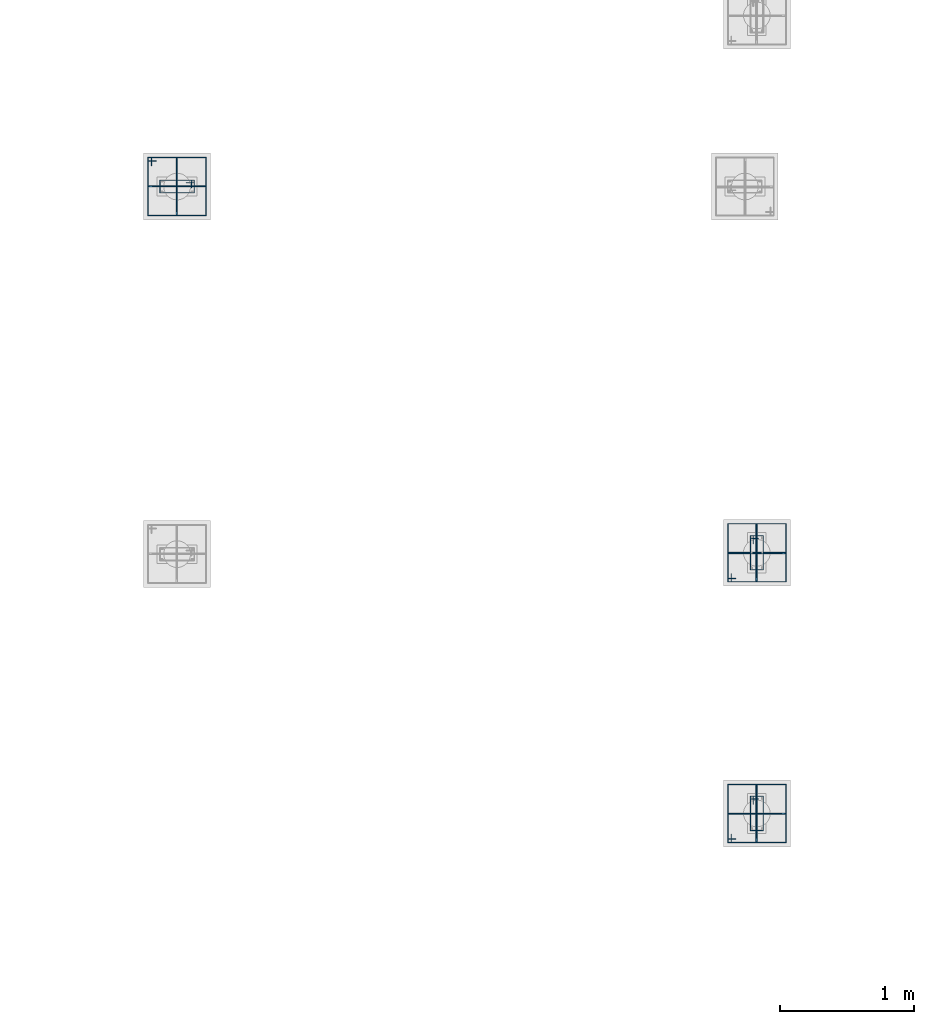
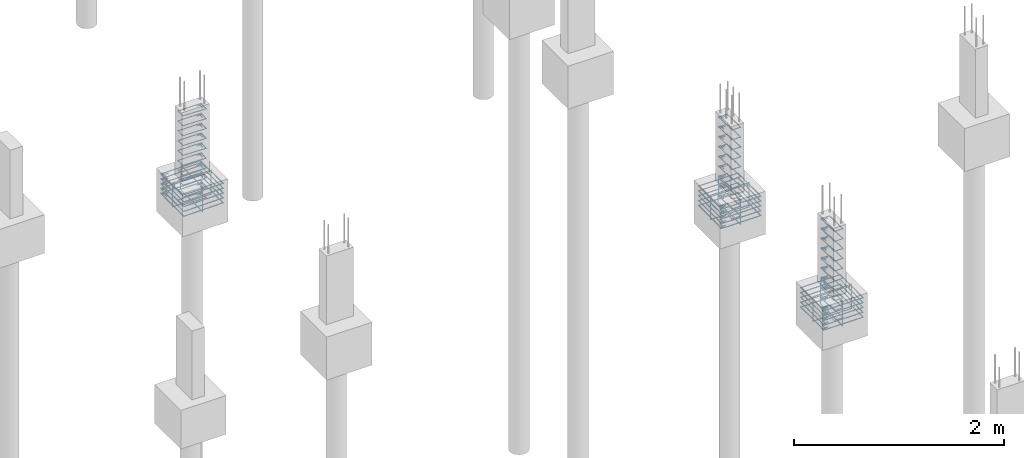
# One storey, part 73 of 119: 51 reinforcing bars.
"""IFC4 building model written with IfcOpenShell, lengths in centimetres."""

from ifc_helpers import new_model, entity, si_unit, derived_unit, frame, origin_with_axes, place, context, project, spatial, source, transform, mapped, element, save


model = new_model("IFC4")

# Units and contexts
model_context = context("Model", 3, precision=1e-05, world=origin_with_axes(), identifier="Body")
ifc_project = project(units=[si_unit("LENGTHUNIT", "METRE", prefix="CENTI"), si_unit("VOLUMEUNIT", "CUBIC_METRE"), si_unit("AREAUNIT", "SQUARE_METRE"), si_unit("POWERUNIT", "WATT"), si_unit("LUMINOUSFLUXUNIT", "LUMEN"), si_unit("ELECTRICCURRENTUNIT", "AMPERE"), si_unit("PRESSUREUNIT", "PASCAL", prefix="KILO"), si_unit("MASSUNIT", "GRAM", prefix="KILO"), si_unit("PLANEANGLEUNIT", "RADIAN"), derived_unit("VOLUMETRICFLOWRATEUNIT", [(si_unit("LENGTHUNIT", "METRE"), 3), (si_unit("TIMEUNIT", "SECOND"), -1)])], contexts=[model_context])

# Site, building, storey
site_placement = place(None, frame((-4000.0, 0.0, 0.0), z_axis=(0.0, 0.0, 1.0), x_axis=(1.0, 0.0, 0.0)))
site = spatial("IfcSite", under=ifc_project, at=site_placement, Name="PADRÃO")
building_placement = place(site_placement, frame((0.0, 0.0, -14.0)))
building = spatial("IfcBuilding", under=site, at=building_placement, Name="CRECHE PRÉ-ESCOLA TIPO 2")
storey_placement = place(building_placement, origin_with_axes())
storey = spatial("IfcBuildingStorey", under=building, at=storey_placement, Name="FUNDAÇÃO", CompositionType="ELEMENT", Elevation=-14.0)

# Reinforcing bars
shared_shape_1 = source(origin_with_axes(), model_context, "Body", "AdvancedSweptSolid", [
    entity("IfcSweptDiskSolid", entity("IfcCompositeCurve", [entity("IfcCompositeCurveSegment", "CONTINUOUS", True, entity("IfcPolyline", [entity("IfcCartesianPoint", [4.25, 21.75, 0.0]), entity("IfcCartesianPoint", [4.25, 27.75, 0.0])])), entity("IfcCompositeCurveSegment", "CONTINUOUS", True, entity("IfcPolyline", [entity("IfcCartesianPoint", [4.25, 27.75, 0.0]), entity("IfcCartesianPoint", [2.25, 27.75, 0.0])])), entity("IfcCompositeCurveSegment", "CONTINUOUS", True, entity("IfcPolyline", [entity("IfcCartesianPoint", [2.25, 27.75, 0.0]), entity("IfcCartesianPoint", [2.25, 2.25, 0.0])])), entity("IfcCompositeCurveSegment", "CONTINUOUS", True, entity("IfcPolyline", [entity("IfcCartesianPoint", [2.25, 2.25, 0.0]), entity("IfcCartesianPoint", [11.75, 2.25, 0.0])])), entity("IfcCompositeCurveSegment", "CONTINUOUS", True, entity("IfcPolyline", [entity("IfcCartesianPoint", [11.75, 2.25, 0.0]), entity("IfcCartesianPoint", [11.75, 27.75, -0.5])])), entity("IfcCompositeCurveSegment", "CONTINUOUS", True, entity("IfcPolyline", [entity("IfcCartesianPoint", [11.75, 27.75, -0.5]), entity("IfcCartesianPoint", [2.25, 27.75, -0.5])])), entity("IfcCompositeCurveSegment", "CONTINUOUS", True, entity("IfcPolyline", [entity("IfcCartesianPoint", [2.25, 27.75, -0.5]), entity("IfcCartesianPoint", [2.25, 25.75, -0.5])])), entity("IfcCompositeCurveSegment", "CONTINUOUS", True, entity("IfcPolyline", [entity("IfcCartesianPoint", [2.25, 25.75, -0.5]), entity("IfcCartesianPoint", [8.25, 25.75, -0.5])]))], False), 0.25),
])
for number, where, z_axis, x_axis, name in (
    (1, (670.0, 1309.5, -51.75), (0.0, 0.0, 1.0), (0.0, -1.0, 0.0), "P108 - Estribo"),
    (2, (670.0, 1309.5, -97.75), (0.0, 0.0, 1.0), (0.0, -1.0, 0.0), "P108 - Estribo"),
    (3, (670.0, 1309.5, -5.75), (0.0, 0.0, 1.0), (0.0, -1.0, 0.0), "P108 - Estribo"),
    (4, (670.0, 1309.5, -17.25), (0.0, 0.0, 1.0), (0.0, -1.0, 0.0), "P108 - Estribo"),
    (5, (670.0, 1309.5, -28.75), (0.0, 0.0, 1.0), (0.0, -1.0, 0.0), "P108 - Estribo"),
    (6, (670.0, 1309.5, -109.25), (0.0, 0.0, 1.0), (0.0, -1.0, 0.0), "P108 - Estribo"),
    (7, (670.0, 1309.5, -63.25), (0.0, 0.0, 1.0), (0.0, -1.0, 0.0), "P108 - Estribo"),
    (8, (670.0, 1309.5, -74.75), (0.0, 0.0, 1.0), (0.0, -1.0, 0.0), "P108 - Estribo"),
    (9, (670.0, 1309.5, -86.25), (0.0, 0.0, 1.0), (0.0, -1.0, 0.0), "P108 - Estribo"),
    (10, (670.0, 1309.5, -40.25), (0.0, 0.0, 1.0), (0.0, -1.0, 0.0), "P108 - Estribo"),
):
    element("IfcReinforcingBar", number, at=place(storey_placement, frame(where, z_axis=z_axis, x_axis=x_axis)), inside=storey, Name=name, BarLength=0.0, CrossSectionArea=1.9634954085e-05, NominalDiameter=0.5, PredefinedType="MAIN", context=model_context, shape_type="MappedRepresentation", body=[
        mapped(shared_shape_1, transform((0.0, 0.0, 0.0), scale=1.0)),
    ])
shared_shape_2 = source(origin_with_axes(), model_context, "Body", "AdvancedSweptSolid", [
    entity("IfcSweptDiskSolid", entity("IfcCompositeCurve", [entity("IfcCompositeCurveSegment", "CONTINUOUS", True, entity("IfcPolyline", [entity("IfcCartesianPoint", [665.835, 1317.925, 0.0]), entity("IfcCartesianPoint", [665.835, 1324.185, 0.0])])), entity("IfcCompositeCurveSegment", "CONTINUOUS", True, entity("IfcPolyline", [entity("IfcCartesianPoint", [665.835, 1324.185, 0.0]), entity("IfcCartesianPoint", [663.315, 1324.185, 0.0])])), entity("IfcCompositeCurveSegment", "CONTINUOUS", True, entity("IfcPolyline", [entity("IfcCartesianPoint", [663.315, 1324.185, 0.0]), entity("IfcCartesianPoint", [663.315, 1280.815, 0.0])])), entity("IfcCompositeCurveSegment", "CONTINUOUS", True, entity("IfcPolyline", [entity("IfcCartesianPoint", [663.315, 1280.815, 0.0]), entity("IfcCartesianPoint", [706.685, 1280.815, 0.63])])), entity("IfcCompositeCurveSegment", "CONTINUOUS", True, entity("IfcPolyline", [entity("IfcCartesianPoint", [706.685, 1280.815, 0.63]), entity("IfcCartesianPoint", [706.685, 1324.185, 0.63])])), entity("IfcCompositeCurveSegment", "CONTINUOUS", True, entity("IfcPolyline", [entity("IfcCartesianPoint", [706.685, 1324.185, 0.63]), entity("IfcCartesianPoint", [663.315, 1324.185, 0.63])])), entity("IfcCompositeCurveSegment", "CONTINUOUS", True, entity("IfcPolyline", [entity("IfcCartesianPoint", [663.315, 1324.185, 0.63]), entity("IfcCartesianPoint", [663.315, 1321.665, 0.63])])), entity("IfcCompositeCurveSegment", "CONTINUOUS", True, entity("IfcPolyline", [entity("IfcCartesianPoint", [663.315, 1321.665, 0.63]), entity("IfcCartesianPoint", [669.575, 1321.665, 0.63])]))], False), 0.315),
])
for number, where, z_axis, x_axis, name in (
    (11, (0.0, 0.0, -103.525), (0.0, 0.0, 1.0), (1.0, 0.0, 0.0), "P108 - Blocos (estribos)"),
    (12, (0.0, 0.0, -109.175), (0.0, 0.0, 1.0), (1.0, 0.0, 0.0), "P108 - Blocos (estribos)"),
    (13, (0.0, 0.0, -86.575), (0.0, 0.0, 1.0), (1.0, 0.0, 0.0), "P108 - Blocos (estribos)"),
    (14, (0.0, 0.0, -92.225), (0.0, 0.0, 1.0), (1.0, 0.0, 0.0), "P108 - Blocos (estribos)"),
    (15, (0.0, 0.0, -97.875), (0.0, 0.0, 1.0), (1.0, 0.0, 0.0), "P108 - Blocos (estribos)"),
):
    element("IfcReinforcingBar", number, at=place(storey_placement, frame(where, z_axis=z_axis, x_axis=x_axis)), inside=storey, Name=name, BarLength=0.0, CrossSectionArea=3.1172453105e-05, NominalDiameter=0.63, PredefinedType="MAIN", context=model_context, shape_type="MappedRepresentation", body=[
        mapped(shared_shape_2, transform((0.0, 0.0, 0.0), scale=1.0)),
    ])
shared_shape_3 = source(origin_with_axes(), model_context, "Body", "AdvancedSweptSolid", [
    entity("IfcSweptDiskSolid", entity("IfcCompositeCurve", [entity("IfcCompositeCurveSegment", "CONTINUOUS", True, entity("IfcPolyline", [entity("IfcCartesianPoint", [-15.12, -12.0, 0.0]), entity("IfcCartesianPoint", [-21.12, -12.0, 0.0])])), entity("IfcCompositeCurveSegment", "CONTINUOUS", True, entity("IfcPolyline", [entity("IfcCartesianPoint", [-21.12, -12.0, 0.0]), entity("IfcCartesianPoint", [-21.12, -14.0, 0.0])])), entity("IfcCompositeCurveSegment", "CONTINUOUS", True, entity("IfcPolyline", [entity("IfcCartesianPoint", [-21.12, -14.0, 0.0]), entity("IfcCartesianPoint", [21.12, -14.0, 0.0])])), entity("IfcCompositeCurveSegment", "CONTINUOUS", True, entity("IfcPolyline", [entity("IfcCartesianPoint", [21.12, -14.0, 0.0]), entity("IfcCartesianPoint", [21.12, 14.0, 0.5])])), entity("IfcCompositeCurveSegment", "CONTINUOUS", True, entity("IfcPolyline", [entity("IfcCartesianPoint", [21.12, 14.0, 0.5]), entity("IfcCartesianPoint", [-21.12, 14.0, 0.5])])), entity("IfcCompositeCurveSegment", "CONTINUOUS", True, entity("IfcPolyline", [entity("IfcCartesianPoint", [-21.12, 14.0, 0.5]), entity("IfcCartesianPoint", [-21.12, -14.0, 0.5])])), entity("IfcCompositeCurveSegment", "CONTINUOUS", True, entity("IfcPolyline", [entity("IfcCartesianPoint", [-21.12, -14.0, 0.5]), entity("IfcCartesianPoint", [-19.12, -14.0, 0.5])])), entity("IfcCompositeCurveSegment", "CONTINUOUS", True, entity("IfcPolyline", [entity("IfcCartesianPoint", [-19.12, -14.0, 0.5]), entity("IfcCartesianPoint", [-19.12, -8.0, 0.5])]))], False), 0.25),
])
reinforcing_bar_1_placement = place(storey_placement, frame((685.0, 1302.5, -97.75), z_axis=(0.0, 1.0, 0.0), x_axis=(1.0, 0.0, 0.0)))
element("IfcReinforcingBar", 16, at=reinforcing_bar_1_placement, inside=storey, Name="P108 - Blocos (estribos)", BarLength=0.0, CrossSectionArea=1.9634954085e-05, NominalDiameter=0.5, PredefinedType="MAIN", context=model_context, shape_type="MappedRepresentation", body=[
    mapped(shared_shape_3, transform((0.0, 0.0, 0.0), scale=1.0)),
])
shared_shape_4 = source(origin_with_axes(), model_context, "Body", "AdvancedSweptSolid", [
    entity("IfcSweptDiskSolid", entity("IfcCompositeCurve", [entity("IfcCompositeCurveSegment", "CONTINUOUS", True, entity("IfcPolyline", [entity("IfcCartesianPoint", [-15.12, -12.0, 0.0]), entity("IfcCartesianPoint", [-21.12, -12.0, 0.0])])), entity("IfcCompositeCurveSegment", "CONTINUOUS", True, entity("IfcPolyline", [entity("IfcCartesianPoint", [-21.12, -12.0, 0.0]), entity("IfcCartesianPoint", [-21.12, -14.0, 0.0])])), entity("IfcCompositeCurveSegment", "CONTINUOUS", True, entity("IfcPolyline", [entity("IfcCartesianPoint", [-21.12, -14.0, 0.0]), entity("IfcCartesianPoint", [21.12, -14.0, 0.0])])), entity("IfcCompositeCurveSegment", "CONTINUOUS", True, entity("IfcPolyline", [entity("IfcCartesianPoint", [21.12, -14.0, 0.0]), entity("IfcCartesianPoint", [21.12, 14.0, 0.5])])), entity("IfcCompositeCurveSegment", "CONTINUOUS", True, entity("IfcPolyline", [entity("IfcCartesianPoint", [21.12, 14.0, 0.5]), entity("IfcCartesianPoint", [-21.12, 14.0, 0.5])])), entity("IfcCompositeCurveSegment", "CONTINUOUS", True, entity("IfcPolyline", [entity("IfcCartesianPoint", [-21.12, 14.0, 0.5]), entity("IfcCartesianPoint", [-21.12, -14.0, 0.5])])), entity("IfcCompositeCurveSegment", "CONTINUOUS", True, entity("IfcPolyline", [entity("IfcCartesianPoint", [-21.12, -14.0, 0.5]), entity("IfcCartesianPoint", [-19.12, -14.0, 0.5])])), entity("IfcCompositeCurveSegment", "CONTINUOUS", True, entity("IfcPolyline", [entity("IfcCartesianPoint", [-19.12, -14.0, 0.5]), entity("IfcCartesianPoint", [-19.12, -8.0, 0.5])]))], False), 0.25),
])
reinforcing_bar_2_placement = place(storey_placement, frame((685.0, 1302.5, -97.75), z_axis=(-1.0, 0.0, 0.0), x_axis=(0.0, 1.0, 0.0)))
element("IfcReinforcingBar", 17, at=reinforcing_bar_2_placement, inside=storey, Name="P108 - Blocos (estribos)", BarLength=0.0, CrossSectionArea=1.9634954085e-05, NominalDiameter=0.5, PredefinedType="MAIN", context=model_context, shape_type="MappedRepresentation", body=[
    mapped(shared_shape_4, transform((0.0, 0.0, 0.0), scale=1.0)),
])
shared_shape_5 = source(origin_with_axes(), model_context, "Body", "AdvancedSweptSolid", [
    entity("IfcSweptDiskSolid", entity("IfcCompositeCurve", [entity("IfcCompositeCurveSegment", "CONTINUOUS", True, entity("IfcPolyline", [entity("IfcCartesianPoint", [4.25, 21.75, 0.0]), entity("IfcCartesianPoint", [4.25, 27.75, 0.0])])), entity("IfcCompositeCurveSegment", "CONTINUOUS", True, entity("IfcPolyline", [entity("IfcCartesianPoint", [4.25, 27.75, 0.0]), entity("IfcCartesianPoint", [2.25, 27.75, 0.0])])), entity("IfcCompositeCurveSegment", "CONTINUOUS", True, entity("IfcPolyline", [entity("IfcCartesianPoint", [2.25, 27.75, 0.0]), entity("IfcCartesianPoint", [2.25, 2.25, 0.0])])), entity("IfcCompositeCurveSegment", "CONTINUOUS", True, entity("IfcPolyline", [entity("IfcCartesianPoint", [2.25, 2.25, 0.0]), entity("IfcCartesianPoint", [11.75, 2.25, 0.0])])), entity("IfcCompositeCurveSegment", "CONTINUOUS", True, entity("IfcPolyline", [entity("IfcCartesianPoint", [11.75, 2.25, 0.0]), entity("IfcCartesianPoint", [11.75, 27.75, -0.5])])), entity("IfcCompositeCurveSegment", "CONTINUOUS", True, entity("IfcPolyline", [entity("IfcCartesianPoint", [11.75, 27.75, -0.5]), entity("IfcCartesianPoint", [2.25, 27.75, -0.5])])), entity("IfcCompositeCurveSegment", "CONTINUOUS", True, entity("IfcPolyline", [entity("IfcCartesianPoint", [2.25, 27.75, -0.5]), entity("IfcCartesianPoint", [2.25, 25.75, -0.5])])), entity("IfcCompositeCurveSegment", "CONTINUOUS", True, entity("IfcPolyline", [entity("IfcCartesianPoint", [2.25, 25.75, -0.5]), entity("IfcCartesianPoint", [8.25, 25.75, -0.5])]))], False), 0.25),
])
for number, where, z_axis, x_axis, name in (
    (18, (1111.72, 1013.5, -17.25), (0.0, 0.0, 1.0), (1.0, 0.0, 0.0), "P119 - Estribo"),
    (19, (1111.72, 1013.5, -86.25), (0.0, 0.0, 1.0), (1.0, 0.0, 0.0), "P119 - Estribo"),
    (20, (1111.72, 1013.5, -5.75), (0.0, 0.0, 1.0), (1.0, 0.0, 0.0), "P119 - Estribo"),
    (21, (1111.72, 1013.5, -109.25), (0.0, 0.0, 1.0), (1.0, 0.0, 0.0), "P119 - Estribo"),
    (22, (1111.72, 1013.5, -51.75), (0.0, 0.0, 1.0), (1.0, 0.0, 0.0), "P119 - Estribo"),
    (23, (1111.72, 1013.5, -40.25), (0.0, 0.0, 1.0), (1.0, 0.0, 0.0), "P119 - Estribo"),
    (24, (1111.72, 1013.5, -28.75), (0.0, 0.0, 1.0), (1.0, 0.0, 0.0), "P119 - Estribo"),
    (25, (1111.72, 1013.5, -97.75), (0.0, 0.0, 1.0), (1.0, 0.0, 0.0), "P119 - Estribo"),
    (26, (1111.72, 1013.5, -63.25), (0.0, 0.0, 1.0), (1.0, 0.0, 0.0), "P119 - Estribo"),
    (27, (1111.72, 1013.5, -74.75), (0.0, 0.0, 1.0), (1.0, 0.0, 0.0), "P119 - Estribo"),
):
    element("IfcReinforcingBar", number, at=place(storey_placement, frame(where, z_axis=z_axis, x_axis=x_axis)), inside=storey, Name=name, BarLength=0.0, CrossSectionArea=1.9634954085e-05, NominalDiameter=0.5, PredefinedType="MAIN", context=model_context, shape_type="MappedRepresentation", body=[
        mapped(shared_shape_5, transform((0.0, 0.0, 0.0), scale=1.0)),
    ])
shared_shape_6 = source(origin_with_axes(), model_context, "Body", "AdvancedSweptSolid", [
    entity("IfcSweptDiskSolid", entity("IfcCompositeCurve", [entity("IfcCompositeCurveSegment", "CONTINUOUS", True, entity("IfcPolyline", [entity("IfcCartesianPoint", [1103.295, 1009.335, 0.0]), entity("IfcCartesianPoint", [1097.035, 1009.335, 0.0])])), entity("IfcCompositeCurveSegment", "CONTINUOUS", True, entity("IfcPolyline", [entity("IfcCartesianPoint", [1097.035, 1009.335, 0.0]), entity("IfcCartesianPoint", [1097.035, 1006.815, 0.0])])), entity("IfcCompositeCurveSegment", "CONTINUOUS", True, entity("IfcPolyline", [entity("IfcCartesianPoint", [1097.035, 1006.815, 0.0]), entity("IfcCartesianPoint", [1140.405, 1006.815, 0.0])])), entity("IfcCompositeCurveSegment", "CONTINUOUS", True, entity("IfcPolyline", [entity("IfcCartesianPoint", [1140.405, 1006.815, 0.0]), entity("IfcCartesianPoint", [1140.405, 1050.185, 0.63])])), entity("IfcCompositeCurveSegment", "CONTINUOUS", True, entity("IfcPolyline", [entity("IfcCartesianPoint", [1140.405, 1050.185, 0.63]), entity("IfcCartesianPoint", [1097.035, 1050.185, 0.63])])), entity("IfcCompositeCurveSegment", "CONTINUOUS", True, entity("IfcPolyline", [entity("IfcCartesianPoint", [1097.035, 1050.185, 0.63]), entity("IfcCartesianPoint", [1097.035, 1006.815, 0.63])])), entity("IfcCompositeCurveSegment", "CONTINUOUS", True, entity("IfcPolyline", [entity("IfcCartesianPoint", [1097.035, 1006.815, 0.63]), entity("IfcCartesianPoint", [1099.555, 1006.815, 0.63])])), entity("IfcCompositeCurveSegment", "CONTINUOUS", True, entity("IfcPolyline", [entity("IfcCartesianPoint", [1099.555, 1006.815, 0.63]), entity("IfcCartesianPoint", [1099.555, 1013.075, 0.63])]))], False), 0.315),
])
for number, where, z_axis, x_axis, name in (
    (28, (0.0, 0.0, -86.575), (0.0, 0.0, 1.0), (1.0, 0.0, 0.0), "P119 - Blocos (estribos)"),
    (29, (0.0, 0.0, -92.225), (0.0, 0.0, 1.0), (1.0, 0.0, 0.0), "P119 - Blocos (estribos)"),
    (30, (0.0, 0.0, -97.875), (0.0, 0.0, 1.0), (1.0, 0.0, 0.0), "P119 - Blocos (estribos)"),
    (31, (0.0, 0.0, -109.175), (0.0, 0.0, 1.0), (1.0, 0.0, 0.0), "P119 - Blocos (estribos)"),
    (32, (0.0, 0.0, -103.525), (0.0, 0.0, 1.0), (1.0, 0.0, 0.0), "P119 - Blocos (estribos)"),
):
    element("IfcReinforcingBar", number, at=place(storey_placement, frame(where, z_axis=z_axis, x_axis=x_axis)), inside=storey, Name=name, BarLength=0.0, CrossSectionArea=3.1172453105e-05, NominalDiameter=0.63, PredefinedType="MAIN", context=model_context, shape_type="MappedRepresentation", body=[
        mapped(shared_shape_6, transform((0.0, 0.0, 0.0), scale=1.0)),
    ])
shared_shape_7 = source(origin_with_axes(), model_context, "Body", "AdvancedSweptSolid", [
    entity("IfcSweptDiskSolid", entity("IfcCompositeCurve", [entity("IfcCompositeCurveSegment", "CONTINUOUS", True, entity("IfcPolyline", [entity("IfcCartesianPoint", [-15.12, -12.0, 0.0]), entity("IfcCartesianPoint", [-21.12, -12.0, 0.0])])), entity("IfcCompositeCurveSegment", "CONTINUOUS", True, entity("IfcPolyline", [entity("IfcCartesianPoint", [-21.12, -12.0, 0.0]), entity("IfcCartesianPoint", [-21.12, -14.0, 0.0])])), entity("IfcCompositeCurveSegment", "CONTINUOUS", True, entity("IfcPolyline", [entity("IfcCartesianPoint", [-21.12, -14.0, 0.0]), entity("IfcCartesianPoint", [21.12, -14.0, 0.0])])), entity("IfcCompositeCurveSegment", "CONTINUOUS", True, entity("IfcPolyline", [entity("IfcCartesianPoint", [21.12, -14.0, 0.0]), entity("IfcCartesianPoint", [21.12, 14.0, 0.5])])), entity("IfcCompositeCurveSegment", "CONTINUOUS", True, entity("IfcPolyline", [entity("IfcCartesianPoint", [21.12, 14.0, 0.5]), entity("IfcCartesianPoint", [-21.12, 14.0, 0.5])])), entity("IfcCompositeCurveSegment", "CONTINUOUS", True, entity("IfcPolyline", [entity("IfcCartesianPoint", [-21.12, 14.0, 0.5]), entity("IfcCartesianPoint", [-21.12, -14.0, 0.5])])), entity("IfcCompositeCurveSegment", "CONTINUOUS", True, entity("IfcPolyline", [entity("IfcCartesianPoint", [-21.12, -14.0, 0.5]), entity("IfcCartesianPoint", [-19.12, -14.0, 0.5])])), entity("IfcCompositeCurveSegment", "CONTINUOUS", True, entity("IfcPolyline", [entity("IfcCartesianPoint", [-19.12, -14.0, 0.5]), entity("IfcCartesianPoint", [-19.12, -8.0, 0.5])]))], False), 0.25),
])
reinforcing_bar_3_placement = place(storey_placement, frame((1118.72, 1028.5, -97.75), z_axis=(-1.0, 0.0, 0.0), x_axis=(0.0, 1.0, 0.0)))
element("IfcReinforcingBar", 33, at=reinforcing_bar_3_placement, inside=storey, Name="P119 - Blocos (estribos)", BarLength=0.0, CrossSectionArea=1.9634954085e-05, NominalDiameter=0.5, PredefinedType="MAIN", context=model_context, shape_type="MappedRepresentation", body=[
    mapped(shared_shape_7, transform((0.0, 0.0, 0.0), scale=1.0)),
])
shared_shape_8 = source(origin_with_axes(), model_context, "Body", "AdvancedSweptSolid", [
    entity("IfcSweptDiskSolid", entity("IfcCompositeCurve", [entity("IfcCompositeCurveSegment", "CONTINUOUS", True, entity("IfcPolyline", [entity("IfcCartesianPoint", [-15.12, -12.0, 0.0]), entity("IfcCartesianPoint", [-21.12, -12.0, 0.0])])), entity("IfcCompositeCurveSegment", "CONTINUOUS", True, entity("IfcPolyline", [entity("IfcCartesianPoint", [-21.12, -12.0, 0.0]), entity("IfcCartesianPoint", [-21.12, -14.0, 0.0])])), entity("IfcCompositeCurveSegment", "CONTINUOUS", True, entity("IfcPolyline", [entity("IfcCartesianPoint", [-21.12, -14.0, 0.0]), entity("IfcCartesianPoint", [21.12, -14.0, 0.0])])), entity("IfcCompositeCurveSegment", "CONTINUOUS", True, entity("IfcPolyline", [entity("IfcCartesianPoint", [21.12, -14.0, 0.0]), entity("IfcCartesianPoint", [21.12, 14.0, 0.5])])), entity("IfcCompositeCurveSegment", "CONTINUOUS", True, entity("IfcPolyline", [entity("IfcCartesianPoint", [21.12, 14.0, 0.5]), entity("IfcCartesianPoint", [-21.12, 14.0, 0.5])])), entity("IfcCompositeCurveSegment", "CONTINUOUS", True, entity("IfcPolyline", [entity("IfcCartesianPoint", [-21.12, 14.0, 0.5]), entity("IfcCartesianPoint", [-21.12, -14.0, 0.5])])), entity("IfcCompositeCurveSegment", "CONTINUOUS", True, entity("IfcPolyline", [entity("IfcCartesianPoint", [-21.12, -14.0, 0.5]), entity("IfcCartesianPoint", [-19.12, -14.0, 0.5])])), entity("IfcCompositeCurveSegment", "CONTINUOUS", True, entity("IfcPolyline", [entity("IfcCartesianPoint", [-19.12, -14.0, 0.5]), entity("IfcCartesianPoint", [-19.12, -8.0, 0.5])]))], False), 0.25),
])
reinforcing_bar_4_placement = place(storey_placement, frame((1118.72, 1028.5, -97.75), z_axis=(0.0, -1.0, 0.0), x_axis=(-1.0, 0.0, 0.0)))
element("IfcReinforcingBar", 34, at=reinforcing_bar_4_placement, inside=storey, Name="P119 - Blocos (estribos)", BarLength=0.0, CrossSectionArea=1.9634954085e-05, NominalDiameter=0.5, PredefinedType="MAIN", context=model_context, shape_type="MappedRepresentation", body=[
    mapped(shared_shape_8, transform((0.0, 0.0, 0.0), scale=1.0)),
])
shared_shape_9 = source(origin_with_axes(), model_context, "Body", "AdvancedSweptSolid", [
    entity("IfcSweptDiskSolid", entity("IfcCompositeCurve", [entity("IfcCompositeCurveSegment", "CONTINUOUS", True, entity("IfcPolyline", [entity("IfcCartesianPoint", [4.25, 21.75, 0.0]), entity("IfcCartesianPoint", [4.25, 27.75, 0.0])])), entity("IfcCompositeCurveSegment", "CONTINUOUS", True, entity("IfcPolyline", [entity("IfcCartesianPoint", [4.25, 27.75, 0.0]), entity("IfcCartesianPoint", [2.25, 27.75, 0.0])])), entity("IfcCompositeCurveSegment", "CONTINUOUS", True, entity("IfcPolyline", [entity("IfcCartesianPoint", [2.25, 27.75, 0.0]), entity("IfcCartesianPoint", [2.25, 2.25, 0.0])])), entity("IfcCompositeCurveSegment", "CONTINUOUS", True, entity("IfcPolyline", [entity("IfcCartesianPoint", [2.25, 2.25, 0.0]), entity("IfcCartesianPoint", [11.75, 2.25, 0.0])])), entity("IfcCompositeCurveSegment", "CONTINUOUS", True, entity("IfcPolyline", [entity("IfcCartesianPoint", [11.75, 2.25, 0.0]), entity("IfcCartesianPoint", [11.75, 27.75, -0.5])])), entity("IfcCompositeCurveSegment", "CONTINUOUS", True, entity("IfcPolyline", [entity("IfcCartesianPoint", [11.75, 27.75, -0.5]), entity("IfcCartesianPoint", [2.25, 27.75, -0.5])])), entity("IfcCompositeCurveSegment", "CONTINUOUS", True, entity("IfcPolyline", [entity("IfcCartesianPoint", [2.25, 27.75, -0.5]), entity("IfcCartesianPoint", [2.25, 25.75, -0.5])])), entity("IfcCompositeCurveSegment", "CONTINUOUS", True, entity("IfcPolyline", [entity("IfcCartesianPoint", [2.25, 25.75, -0.5]), entity("IfcCartesianPoint", [8.25, 25.75, -0.5])]))], False), 0.25),
])
for number, where, z_axis, x_axis, name in (
    (35, (1111.72, 818.5, -63.25), (0.0, 0.0, 1.0), (1.0, 0.0, 0.0), "P126 - Estribo"),
    (36, (1111.72, 818.5, -74.75), (0.0, 0.0, 1.0), (1.0, 0.0, 0.0), "P126 - Estribo"),
    (37, (1111.72, 818.5, -86.25), (0.0, 0.0, 1.0), (1.0, 0.0, 0.0), "P126 - Estribo"),
    (38, (1111.72, 818.5, -97.75), (0.0, 0.0, 1.0), (1.0, 0.0, 0.0), "P126 - Estribo"),
    (39, (1111.72, 818.5, -109.25), (0.0, 0.0, 1.0), (1.0, 0.0, 0.0), "P126 - Estribo"),
    (40, (1111.72, 818.5, -5.75), (0.0, 0.0, 1.0), (1.0, 0.0, 0.0), "P126 - Estribo"),
    (41, (1111.72, 818.5, -17.25), (0.0, 0.0, 1.0), (1.0, 0.0, 0.0), "P126 - Estribo"),
    (42, (1111.72, 818.5, -28.75), (0.0, 0.0, 1.0), (1.0, 0.0, 0.0), "P126 - Estribo"),
    (43, (1111.72, 818.5, -40.25), (0.0, 0.0, 1.0), (1.0, 0.0, 0.0), "P126 - Estribo"),
    (44, (1111.72, 818.5, -51.75), (0.0, 0.0, 1.0), (1.0, 0.0, 0.0), "P126 - Estribo"),
):
    element("IfcReinforcingBar", number, at=place(storey_placement, frame(where, z_axis=z_axis, x_axis=x_axis)), inside=storey, Name=name, BarLength=0.0, CrossSectionArea=1.9634954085e-05, NominalDiameter=0.5, PredefinedType="MAIN", context=model_context, shape_type="MappedRepresentation", body=[
        mapped(shared_shape_9, transform((0.0, 0.0, 0.0), scale=1.0)),
    ])
shared_shape_10 = source(origin_with_axes(), model_context, "Body", "AdvancedSweptSolid", [
    entity("IfcSweptDiskSolid", entity("IfcCompositeCurve", [entity("IfcCompositeCurveSegment", "CONTINUOUS", True, entity("IfcPolyline", [entity("IfcCartesianPoint", [1103.295, 814.335, 0.0]), entity("IfcCartesianPoint", [1097.035, 814.335, 0.0])])), entity("IfcCompositeCurveSegment", "CONTINUOUS", True, entity("IfcPolyline", [entity("IfcCartesianPoint", [1097.035, 814.335, 0.0]), entity("IfcCartesianPoint", [1097.035, 811.815, 0.0])])), entity("IfcCompositeCurveSegment", "CONTINUOUS", True, entity("IfcPolyline", [entity("IfcCartesianPoint", [1097.035, 811.815, 0.0]), entity("IfcCartesianPoint", [1140.405, 811.815, 0.0])])), entity("IfcCompositeCurveSegment", "CONTINUOUS", True, entity("IfcPolyline", [entity("IfcCartesianPoint", [1140.405, 811.815, 0.0]), entity("IfcCartesianPoint", [1140.405, 855.185, 0.63])])), entity("IfcCompositeCurveSegment", "CONTINUOUS", True, entity("IfcPolyline", [entity("IfcCartesianPoint", [1140.405, 855.185, 0.63]), entity("IfcCartesianPoint", [1097.035, 855.185, 0.63])])), entity("IfcCompositeCurveSegment", "CONTINUOUS", True, entity("IfcPolyline", [entity("IfcCartesianPoint", [1097.035, 855.185, 0.63]), entity("IfcCartesianPoint", [1097.035, 811.815, 0.63])])), entity("IfcCompositeCurveSegment", "CONTINUOUS", True, entity("IfcPolyline", [entity("IfcCartesianPoint", [1097.035, 811.815, 0.63]), entity("IfcCartesianPoint", [1099.555, 811.815, 0.63])])), entity("IfcCompositeCurveSegment", "CONTINUOUS", True, entity("IfcPolyline", [entity("IfcCartesianPoint", [1099.555, 811.815, 0.63]), entity("IfcCartesianPoint", [1099.555, 818.075, 0.63])]))], False), 0.315),
])
for number, where, z_axis, x_axis, name in (
    (45, (0.0, 0.0, -103.525), (0.0, 0.0, 1.0), (1.0, 0.0, 0.0), "P126 - Blocos (estribos)"),
    (46, (0.0, 0.0, -97.875), (0.0, 0.0, 1.0), (1.0, 0.0, 0.0), "P126 - Blocos (estribos)"),
    (47, (0.0, 0.0, -92.225), (0.0, 0.0, 1.0), (1.0, 0.0, 0.0), "P126 - Blocos (estribos)"),
    (48, (0.0, 0.0, -86.575), (0.0, 0.0, 1.0), (1.0, 0.0, 0.0), "P126 - Blocos (estribos)"),
    (49, (0.0, 0.0, -109.175), (0.0, 0.0, 1.0), (1.0, 0.0, 0.0), "P126 - Blocos (estribos)"),
):
    element("IfcReinforcingBar", number, at=place(storey_placement, frame(where, z_axis=z_axis, x_axis=x_axis)), inside=storey, Name=name, BarLength=0.0, CrossSectionArea=3.1172453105e-05, NominalDiameter=0.63, PredefinedType="MAIN", context=model_context, shape_type="MappedRepresentation", body=[
        mapped(shared_shape_10, transform((0.0, 0.0, 0.0), scale=1.0)),
    ])
shared_shape_11 = source(origin_with_axes(), model_context, "Body", "AdvancedSweptSolid", [
    entity("IfcSweptDiskSolid", entity("IfcCompositeCurve", [entity("IfcCompositeCurveSegment", "CONTINUOUS", True, entity("IfcPolyline", [entity("IfcCartesianPoint", [-15.12, -12.0, 0.0]), entity("IfcCartesianPoint", [-21.12, -12.0, 0.0])])), entity("IfcCompositeCurveSegment", "CONTINUOUS", True, entity("IfcPolyline", [entity("IfcCartesianPoint", [-21.12, -12.0, 0.0]), entity("IfcCartesianPoint", [-21.12, -14.0, 0.0])])), entity("IfcCompositeCurveSegment", "CONTINUOUS", True, entity("IfcPolyline", [entity("IfcCartesianPoint", [-21.12, -14.0, 0.0]), entity("IfcCartesianPoint", [21.12, -14.0, 0.0])])), entity("IfcCompositeCurveSegment", "CONTINUOUS", True, entity("IfcPolyline", [entity("IfcCartesianPoint", [21.12, -14.0, 0.0]), entity("IfcCartesianPoint", [21.12, 14.0, 0.5])])), entity("IfcCompositeCurveSegment", "CONTINUOUS", True, entity("IfcPolyline", [entity("IfcCartesianPoint", [21.12, 14.0, 0.5]), entity("IfcCartesianPoint", [-21.12, 14.0, 0.5])])), entity("IfcCompositeCurveSegment", "CONTINUOUS", True, entity("IfcPolyline", [entity("IfcCartesianPoint", [-21.12, 14.0, 0.5]), entity("IfcCartesianPoint", [-21.12, -14.0, 0.5])])), entity("IfcCompositeCurveSegment", "CONTINUOUS", True, entity("IfcPolyline", [entity("IfcCartesianPoint", [-21.12, -14.0, 0.5]), entity("IfcCartesianPoint", [-19.12, -14.0, 0.5])])), entity("IfcCompositeCurveSegment", "CONTINUOUS", True, entity("IfcPolyline", [entity("IfcCartesianPoint", [-19.12, -14.0, 0.5]), entity("IfcCartesianPoint", [-19.12, -8.0, 0.5])]))], False), 0.25),
])
reinforcing_bar_5_placement = place(storey_placement, frame((1118.72, 833.5, -97.75), z_axis=(-1.0, 0.0, 0.0), x_axis=(0.0, 1.0, 0.0)))
element("IfcReinforcingBar", 50, at=reinforcing_bar_5_placement, inside=storey, Name="P126 - Blocos (estribos)", BarLength=0.0, CrossSectionArea=1.9634954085e-05, NominalDiameter=0.5, PredefinedType="MAIN", context=model_context, shape_type="MappedRepresentation", body=[
    mapped(shared_shape_11, transform((0.0, 0.0, 0.0), scale=1.0)),
])
shared_shape_12 = source(origin_with_axes(), model_context, "Body", "AdvancedSweptSolid", [
    entity("IfcSweptDiskSolid", entity("IfcCompositeCurve", [entity("IfcCompositeCurveSegment", "CONTINUOUS", True, entity("IfcPolyline", [entity("IfcCartesianPoint", [-15.12, -12.0, 0.0]), entity("IfcCartesianPoint", [-21.12, -12.0, 0.0])])), entity("IfcCompositeCurveSegment", "CONTINUOUS", True, entity("IfcPolyline", [entity("IfcCartesianPoint", [-21.12, -12.0, 0.0]), entity("IfcCartesianPoint", [-21.12, -14.0, 0.0])])), entity("IfcCompositeCurveSegment", "CONTINUOUS", True, entity("IfcPolyline", [entity("IfcCartesianPoint", [-21.12, -14.0, 0.0]), entity("IfcCartesianPoint", [21.12, -14.0, 0.0])])), entity("IfcCompositeCurveSegment", "CONTINUOUS", True, entity("IfcPolyline", [entity("IfcCartesianPoint", [21.12, -14.0, 0.0]), entity("IfcCartesianPoint", [21.12, 14.0, 0.5])])), entity("IfcCompositeCurveSegment", "CONTINUOUS", True, entity("IfcPolyline", [entity("IfcCartesianPoint", [21.12, 14.0, 0.5]), entity("IfcCartesianPoint", [-21.12, 14.0, 0.5])])), entity("IfcCompositeCurveSegment", "CONTINUOUS", True, entity("IfcPolyline", [entity("IfcCartesianPoint", [-21.12, 14.0, 0.5]), entity("IfcCartesianPoint", [-21.12, -14.0, 0.5])])), entity("IfcCompositeCurveSegment", "CONTINUOUS", True, entity("IfcPolyline", [entity("IfcCartesianPoint", [-21.12, -14.0, 0.5]), entity("IfcCartesianPoint", [-19.12, -14.0, 0.5])])), entity("IfcCompositeCurveSegment", "CONTINUOUS", True, entity("IfcPolyline", [entity("IfcCartesianPoint", [-19.12, -14.0, 0.5]), entity("IfcCartesianPoint", [-19.12, -8.0, 0.5])]))], False), 0.25),
])
reinforcing_bar_6_placement = place(storey_placement, frame((1118.72, 833.5, -97.75), z_axis=(0.0, -1.0, 0.0), x_axis=(-1.0, 0.0, 0.0)))
element("IfcReinforcingBar", 51, at=reinforcing_bar_6_placement, inside=storey, Name="P126 - Blocos (estribos)", BarLength=0.0, CrossSectionArea=1.9634954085e-05, NominalDiameter=0.5, PredefinedType="MAIN", context=model_context, shape_type="MappedRepresentation", body=[
    mapped(shared_shape_12, transform((0.0, 0.0, 0.0), scale=1.0)),
])

save(model, "model.ifc")
